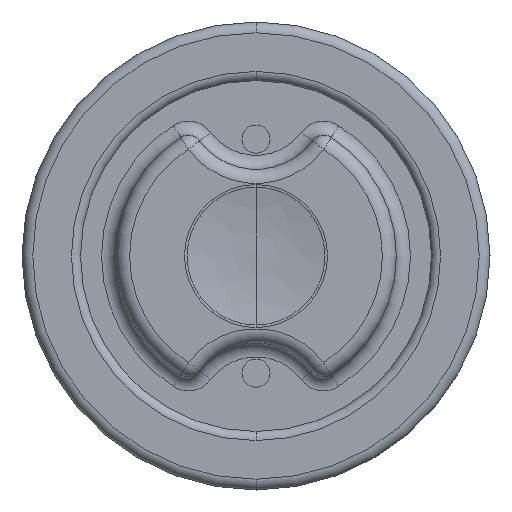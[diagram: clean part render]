
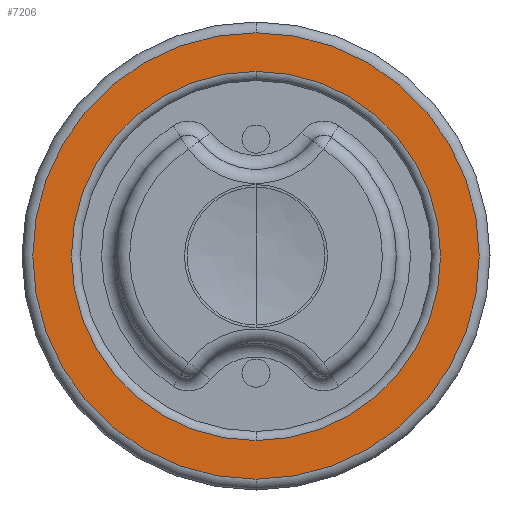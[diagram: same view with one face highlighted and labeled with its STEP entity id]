
A CAD part, left-side view. The second image highlights one B-rep face of the part: STEP entity #7206.
In plain terms, the highlighted planar face has unit normal (-1, 0, 0).
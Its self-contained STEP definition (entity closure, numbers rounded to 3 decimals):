
#2=CARTESIAN_POINT('',(-9.5,0.,0.002));
#3=DIRECTION('',(1.,0.,0.));
#4=DIRECTION('',(0.,0.,-1.));
#5=AXIS2_PLACEMENT_3D('',#2,#3,#4);
#17=CARTESIAN_POINT('',(-9.5,0.,0.002));
#18=DIRECTION('',(-1.,0.,0.));
#19=DIRECTION('',(0.,0.,-1.));
#20=AXIS2_PLACEMENT_3D('',#17,#18,#19);
#398=CARTESIAN_POINT('',(-9.5,0.,0.002));
#399=DIRECTION('',(-1.,0.,0.));
#400=DIRECTION('',(0.,0.,1.));
#401=AXIS2_PLACEMENT_3D('',#398,#399,#400);
#403=CARTESIAN_POINT('',(-9.5,0.,0.002));
#404=DIRECTION('',(-1.,0.,0.));
#405=DIRECTION('',(0.,0.,-1.));
#406=AXIS2_PLACEMENT_3D('',#403,#404,#405);
#4981=CARTESIAN_POINT('',(-9.5,0.,-3.942));
#4983=VERTEX_POINT('',#4981);
#4985=CARTESIAN_POINT('',(-9.5,0.,3.945));
#4987=VERTEX_POINT('',#4985);
#5005=CARTESIAN_POINT('',(-9.5,0.,4.772));
#5006=CARTESIAN_POINT('',(-9.5,0.,-4.768));
#5007=VERTEX_POINT('',#5005);
#5008=VERTEX_POINT('',#5006);
#7191=CARTESIAN_POINT('',(-9.5,0.,0.002));
#7192=DIRECTION('',(1.,0.,0.));
#7193=DIRECTION('',(0.,0.,1.));
#7194=AXIS2_PLACEMENT_3D('',#7191,#7192,#7193);
#7195=PLANE('',#7194);
#7197=ORIENTED_EDGE('',*,*,#7196,.F.);
#7199=ORIENTED_EDGE('',*,*,#7198,.F.);
#7200=EDGE_LOOP('',(#7197,#7199));
#7201=FACE_OUTER_BOUND('',#7200,.F.);
#7202=ORIENTED_EDGE('',*,*,#6596,.T.);
#7203=ORIENTED_EDGE('',*,*,#6578,.F.);
#7204=EDGE_LOOP('',(#7202,#7203));
#7205=FACE_BOUND('',#7204,.F.);
#7206=ADVANCED_FACE('',(#7201,#7205),#7195,.F.);
#6=CIRCLE('',#5,3.944);
#21=CIRCLE('',#20,3.944);
#402=CIRCLE('',#401,4.77);
#407=CIRCLE('',#406,4.77);
#6578=EDGE_CURVE('',#4983,#4987,#6,.T.);
#6596=EDGE_CURVE('',#4983,#4987,#21,.T.);
#7196=EDGE_CURVE('',#5007,#5008,#402,.T.);
#7198=EDGE_CURVE('',#5008,#5007,#407,.T.);
